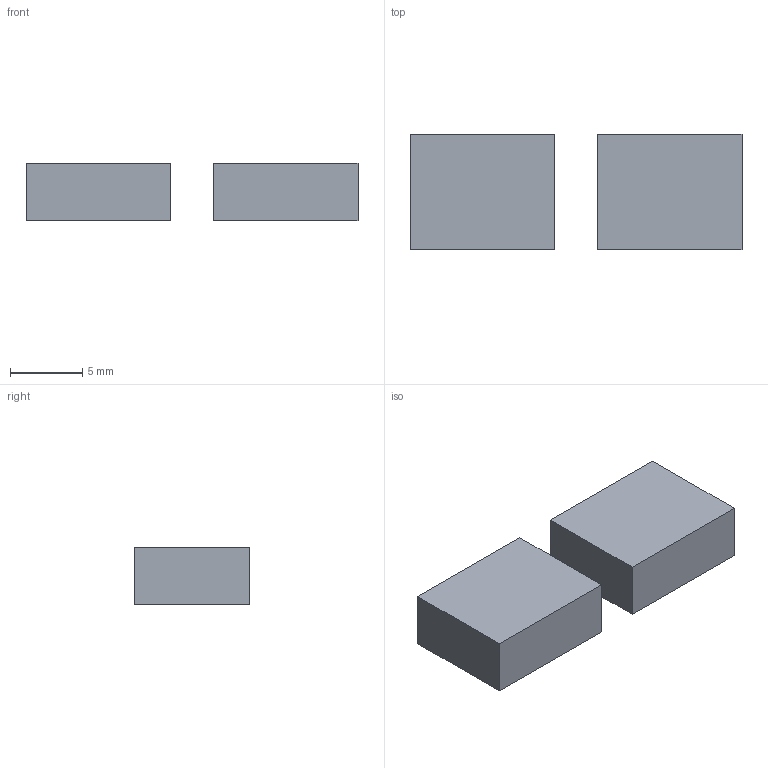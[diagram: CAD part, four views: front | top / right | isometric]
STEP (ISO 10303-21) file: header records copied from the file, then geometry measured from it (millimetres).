
FILE_DESCRIPTION(('Open CASCADE Model'),'2;1');
FILE_NAME('Open CASCADE Shape Model','2026-11-17T09:26:29',('Author'),( 'Open CASCADE'),'Open CASCADE STEP processor 8.0','Open CASCADE 8.0' ,'Unknown');
FILE_SCHEMA(('AUTOMOTIVE_DESIGN { 1 0 10303 214 1 1 1 1 }'));
Length unit declared in the file: millimetre
Products named in the file (3): Open CASCADE STEP translator 8.0 4; Open CASCADE STEP translator 8.0 4.1; Open CASCADE STEP translator 8.0 4.2
Assembly tree (2 placements, depth 2):
  Open CASCADE STEP translator 8.0 4
    Open CASCADE STEP translator 8.0 4.1
    Open CASCADE STEP translator 8.0 4.2
Bounding box: 23 x 8 x 4 mm (x, y, z)
Volume: 640 mm3; surface area: 608 mm2
Topology: 2 solids, 2 shells, 12 faces, 24 edges, 16 vertices
Faces by surface type: plane 12
Entity records: 664 total; most frequent: CARTESIAN_POINT 103, DIRECTION 102, LINE 72, VECTOR 72, ORIENTED_EDGE 48, PCURVE 48, DEFINITIONAL_REPRESENTATION 48, EDGE_CURVE 24
